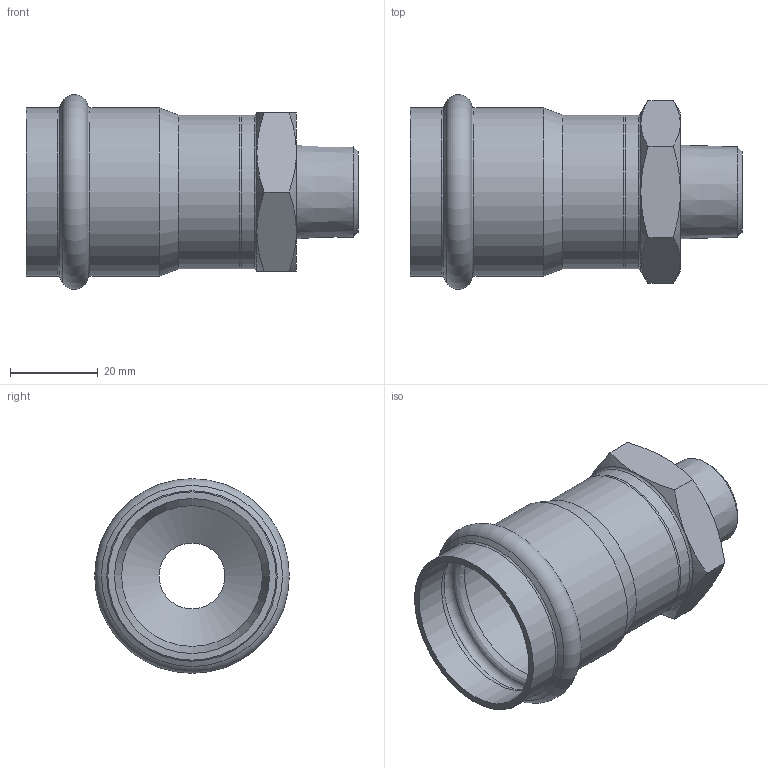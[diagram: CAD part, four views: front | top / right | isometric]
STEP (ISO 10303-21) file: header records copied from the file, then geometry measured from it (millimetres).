
FILE_DESCRIPTION((''),'2;1');
FILE_NAME('G:\Nirosan-Schmiedefeld\Technics\CAD\001 Serie 9.000\035\69243G3512H(0).stp','2018-10-16T10:44:45',('herberg'),(''),'Autodesk Inventor 2009','Autodesk Inventor 2009','');
FILE_SCHEMA(('AUTOMOTIVE_DESIGN { 1 0 10303 214 1 1 1 1 }'));
Length unit declared in the file: centimetre
Products named in the file (3): 69243G3512H(0); HM_69270G35(1); 69ATAG35R12P(0)
Assembly tree (2 placements, depth 2):
  69243G3512H(0)
    HM_69270G35(1)
    69ATAG35R12P(0)
Bounding box: 75.5 x 44.28 x 44.28 mm (x, y, z)
Volume: 17666.2 mm3; surface area: 17881.5 mm2
Topology: 2 solids, 2 shells, 46 faces, 96 edges, 55 vertices
Faces by surface type: cone 18, plane 11, bspline 8, cylinder 7, torus 2
Full cylindrical faces by diameter (mm): 32 x1, 35 x2, 35.25 x2, 38.25 x2
Entity records: 1367 total; most frequent: CARTESIAN_POINT 492, DIRECTION 172, ORIENTED_EDGE 140, AXIS2_PLACEMENT_3D 83, EDGE_LOOP 74, EDGE_CURVE 70, VERTEX_POINT 52, FACE_OUTER_BOUND 46
